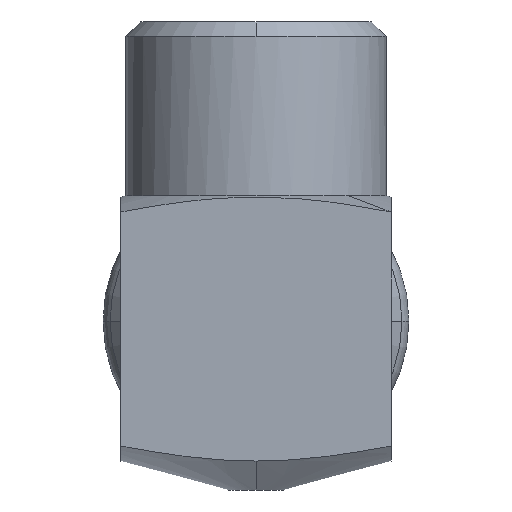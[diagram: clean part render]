
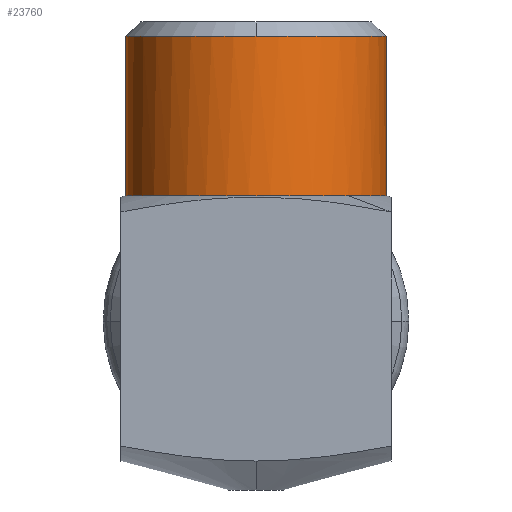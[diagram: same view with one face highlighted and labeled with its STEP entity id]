
A CAD part, left-side view. The second image highlights one B-rep face of the part: STEP entity #23760.
In plain terms, the highlighted cylindrical face has radius 13.5 mm (diameter 27 mm), a partial arc.
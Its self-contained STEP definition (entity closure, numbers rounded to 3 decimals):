
#9780=CARTESIAN_POINT('',(-319.291,20.435,31.));
#9790=DIRECTION('',(0.,0.,1.));
#9800=DIRECTION('',(-1.,0.,0.));
#9810=AXIS2_PLACEMENT_3D('',#9780,#9790,#9800);
#9820=CYLINDRICAL_SURFACE('',#9810,13.5);
#9830=CARTESIAN_POINT('',(-319.291,20.435,13.));
#9840=DIRECTION('',(0.,0.,1.));
#9850=DIRECTION('',(-1.,0.,0.));
#9860=AXIS2_PLACEMENT_3D('',#9830,#9840,#9850);
#9870=CIRCLE('',#9860,13.5);
#9880=CARTESIAN_POINT('',(-305.791,20.435,13.));
#9890=VERTEX_POINT('',#9880);
#9940=CARTESIAN_POINT('',(-305.791,20.435,31.));
#9950=DIRECTION('',(0.,0.,1.));
#9960=VECTOR('',#9950,1.);
#9970=LINE('',#9940,#9960);
#9980=CARTESIAN_POINT('',(-305.791,20.435,29.5));
#9990=VERTEX_POINT('',#9980);
#10000=EDGE_CURVE('',#9890,#9990,#9970,.T.);
#10020=CARTESIAN_POINT('',(-319.291,20.435,29.5));
#10030=DIRECTION('',(0.,0.,1.));
#10040=DIRECTION('',(0.,1.,0.));
#10050=AXIS2_PLACEMENT_3D('',#10020,#10030,#10040);
#10060=CIRCLE('',#10050,13.5);
#10110=CARTESIAN_POINT('',(-332.791,20.435,29.5));
#10120=VERTEX_POINT('',#10110);
#10150=CARTESIAN_POINT('',(-332.791,20.435,31.));
#10160=DIRECTION('',(0.,0.,1.));
#10170=VECTOR('',#10160,1.);
#10180=LINE('',#10150,#10170);
#10190=CARTESIAN_POINT('',(-332.791,20.435,13.));
#10200=VERTEX_POINT('',#10190);
#10210=EDGE_CURVE('',#10200,#10120,#10180,.T.);
#18610=CARTESIAN_POINT('',(-309.745,10.889,13.));
#18620=VERTEX_POINT('',#18610);
#18630=EDGE_CURVE('',#10200,#18620,#9870,.T.);
#18930=CARTESIAN_POINT('',(-319.291,6.935,29.5));
#18940=VERTEX_POINT('',#18930);
#18970=EDGE_CURVE('',#10120,#18940,#10060,.T.);
#23450=EDGE_CURVE('',#18940,#9990,#10060,.T.);
#23670=ORIENTED_EDGE('',*,*,#18970,.F.);
#23680=ORIENTED_EDGE('',*,*,#23450,.F.);
#23690=ORIENTED_EDGE('',*,*,#10000,.T.);
#23700=EDGE_CURVE('',#18620,#9890,#9870,.T.);
#23710=ORIENTED_EDGE('',*,*,#23700,.T.);
#23720=ORIENTED_EDGE('',*,*,#18630,.T.);
#23730=ORIENTED_EDGE('',*,*,#10210,.F.);
#23740=EDGE_LOOP('',(#23730,#23720,#23710,#23690,#23680,#23670));
#23750=FACE_OUTER_BOUND('',#23740,.T.);
#23760=ADVANCED_FACE('',(#23750),#9820,.T.);
